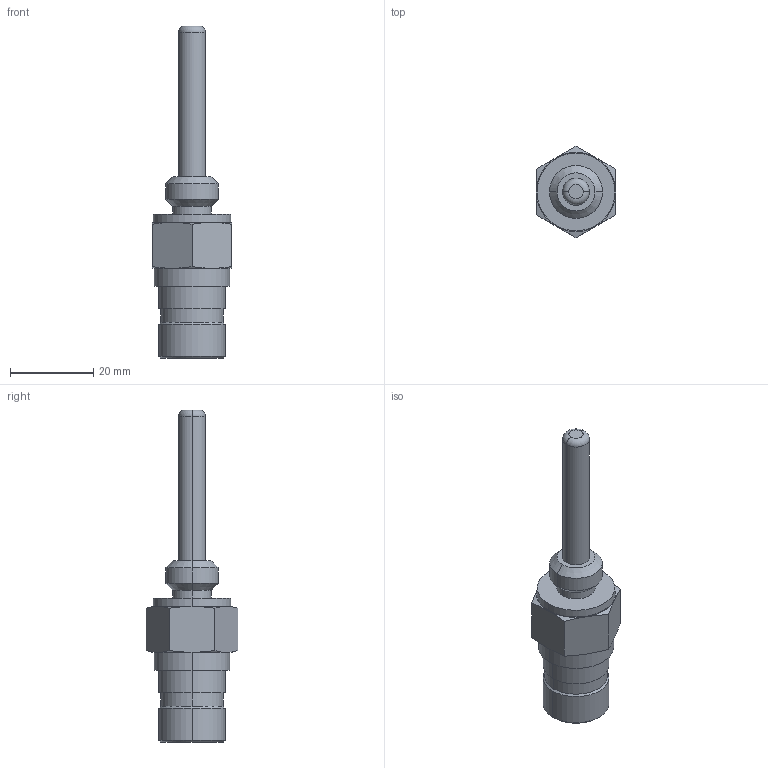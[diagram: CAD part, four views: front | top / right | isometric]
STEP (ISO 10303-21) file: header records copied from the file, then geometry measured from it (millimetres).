
FILE_DESCRIPTION (( 'STEP AP214' ), '1' );
FILE_NAME ('TS12T-AERO.STEP', '2008-04-10T19:06:09', ( 'Authorized User' ), ( 'Precision Sensors' ), 'SwSTEP 2.0', 'SolidWorks 2006303', '' );
FILE_SCHEMA (( 'AUTOMOTIVE_DESIGN' ));
Length unit declared in the file: inch
Products named in the file (1): TS12T-AERO
Bounding box: 19.05 x 22 x 79.73 mm (x, y, z)
Volume: 8933.7 mm3; surface area: 4164.6 mm2
Topology: 1 solids, 1 shells, 55 faces, 112 edges, 66 vertices
Faces by surface type: cone 20, cylinder 18, plane 15, torus 2
Entity records: 1533 total; most frequent: CARTESIAN_POINT 354, DIRECTION 256, ORIENTED_EDGE 224, EDGE_CURVE 112, AXIS2_PLACEMENT_3D 112, VERTEX_POINT 66, EDGE_LOOP 62, CIRCLE 56
